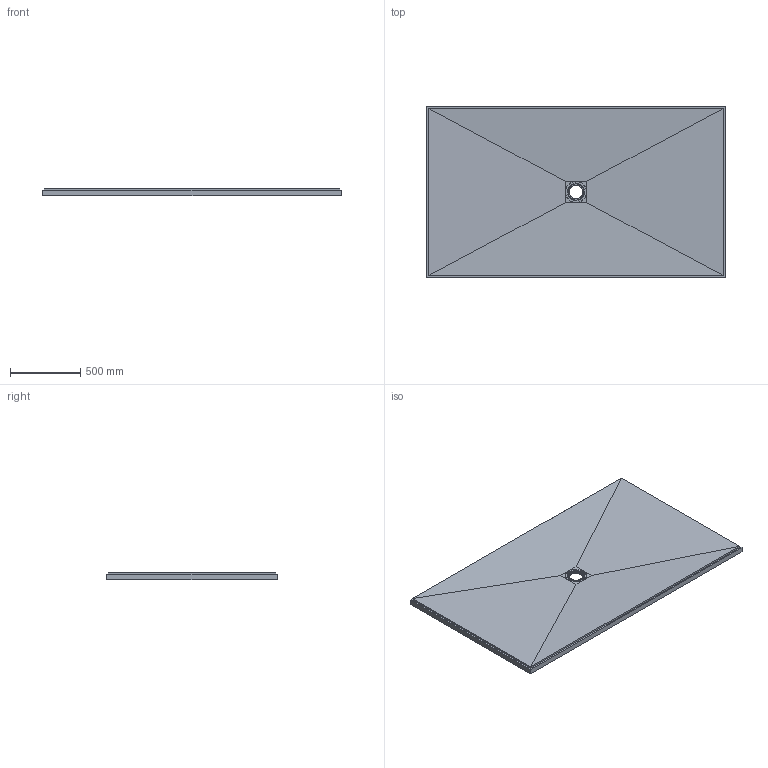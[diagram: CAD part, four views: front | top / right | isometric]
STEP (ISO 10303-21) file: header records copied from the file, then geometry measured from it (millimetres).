
FILE_DESCRIPTION(/* description */ ('Fertigteil'),/* implementation_level */ '2;1');
FILE_NAME(/* name */ 'C:\Users\fuser-vault-job\AppData\Local\Temp\MuM_12053qch.2tu\D-000001141.iam_.step',/* time_stamp */ '2022-07-14T10:03:25+02:00',/* author */ ('ds'),/* organization */ (''),/* preprocessor_version */ 'ST-DEVELOPER v18.1',/* originating_system */ 'Autodesk Inventor 2020',/* authorisation */ '');
FILE_SCHEMA (('AUTOMOTIVE_DESIGN { 1 0 10303 214 3 1 1 }'));
Products named in the file (3): 073740059; 073740059_1; DD0000003
Assembly tree (2 placements, depth 2):
  073740059
    073740059_1
    DD0000003
Bounding box: 2133.6 x 1219.2 x 50 mm (x, y, z)
Volume: 103155726.5 mm3; surface area: 5563810.9 mm2
Topology: 2 solids, 2 shells, 743 faces, 2189 edges, 1474 vertices
Faces by surface type: bspline 372, torus 115, cone 78, cylinder 76, plane 68, sphere 34
Full cylindrical faces by diameter (mm): 6 x3, 151 x1
Entity records: 63140 total; most frequent: CARTESIAN_POINT 44892, ORIENTED_EDGE 4322, DIRECTION 3297, EDGE_CURVE 2161, VERTEX_POINT 1456, AXIS2_PLACEMENT_3D 1338, CIRCLE 812, EDGE_LOOP 803
